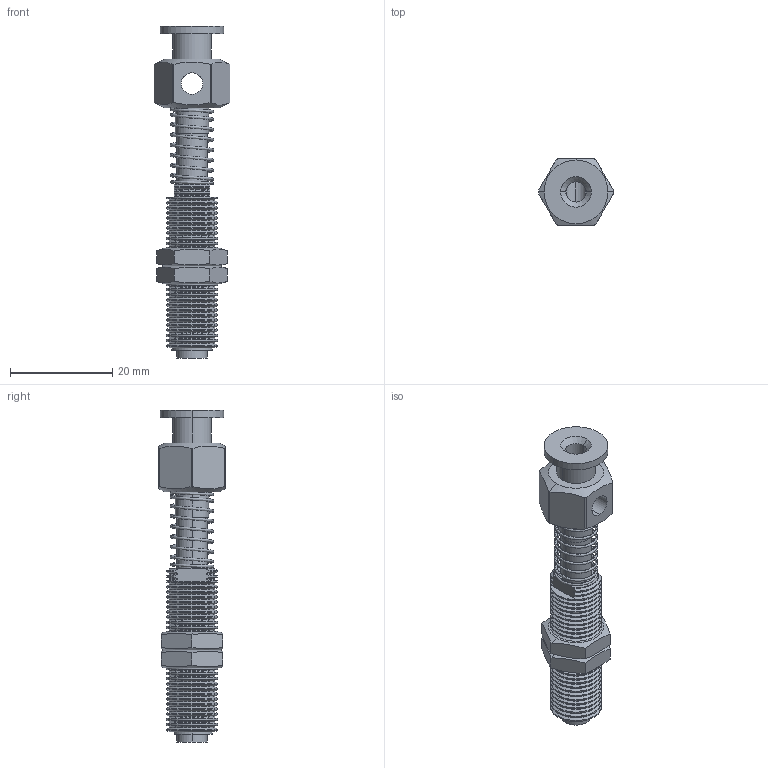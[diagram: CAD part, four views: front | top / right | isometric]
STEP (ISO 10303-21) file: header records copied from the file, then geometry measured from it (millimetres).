
FILE_DESCRIPTION (( 'STEP AP214' ), '1' );
FILE_NAME ('332.STEP', '2017-06-28T20:47:20', ( 'EMI' ), ( 'Microsoft' ), 'SwSTEP 2.0', 'SolidWorks 2017', '' );
FILE_SCHEMA (( 'AUTOMOTIVE_DESIGN' ));
Length unit declared in the file: millimetre
Products named in the file (1): 332
Bounding box: 14.8 x 13 x 65 mm (x, y, z)
Volume: 4668.7 mm3; surface area: 5467.2 mm2
Topology: 6 solids, 6 shells, 373 faces, 821 edges, 465 vertices
Faces by surface type: cylinder 178, cone 145, plane 48, bspline 2
Entity records: 13159 total; most frequent: CARTESIAN_POINT 4599, DIRECTION 1884, ORIENTED_EDGE 1642, EDGE_CURVE 821, AXIS2_PLACEMENT_3D 756, VERTEX_POINT 465, EDGE_LOOP 388, CIRCLE 384
